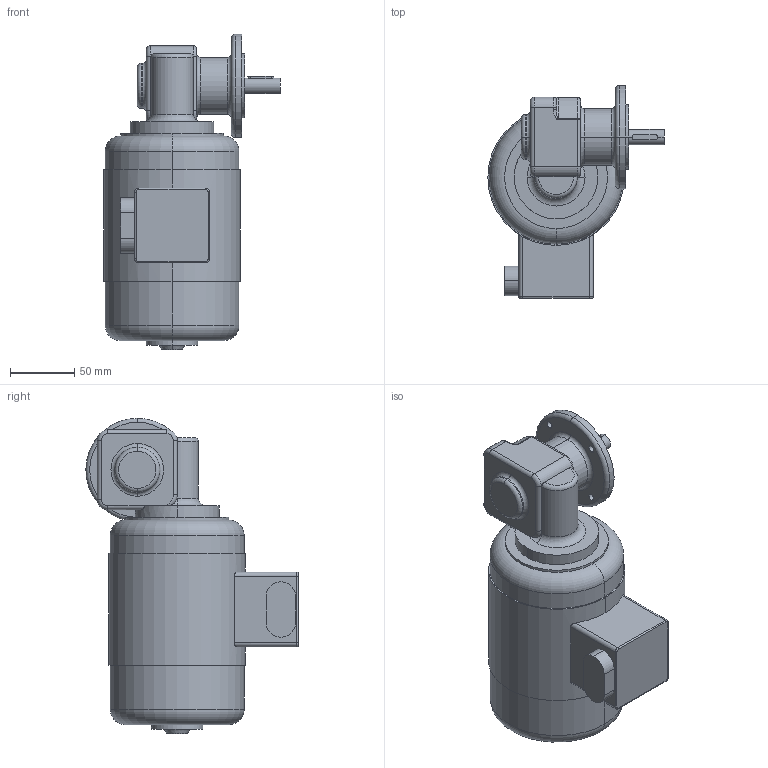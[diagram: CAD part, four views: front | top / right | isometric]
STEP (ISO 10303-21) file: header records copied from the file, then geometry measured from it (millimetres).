
FILE_DESCRIPTION (( 'STEP AP203' ), '1' );
FILE_NAME ('SN5FRG-120W-C.STEP', '2012-09-25T10:28:24', ( '' ), ( '' ), 'SwSTEP 2.0', 'SolidWorks 2011', '' );
FILE_SCHEMA (( 'CONFIG_CONTROL_DESIGN' ));
Length unit declared in the file: metre
Products named in the file (3): SN5FRG-120W-C; GS-120W-of; SN5FR
Assembly tree (2 placements, depth 2):
  SN5FRG-120W-C
    SN5FR
    GS-120W-of
Bounding box: 137 x 165 x 245 mm (x, y, z)
Volume: 1820921.4 mm3; surface area: 116309 mm2
Topology: 2 solids, 2 shells, 150 faces, 344 edges, 206 vertices
Faces by surface type: cylinder 70, torus 36, plane 34, bspline 4, sphere 4, cone 2
Entity records: 5106 total; most frequent: CARTESIAN_POINT 1327, DIRECTION 811, ORIENTED_EDGE 684, AXIS2_PLACEMENT_3D 346, EDGE_CURVE 342, VERTEX_POINT 206, CIRCLE 195, EDGE_LOOP 168
